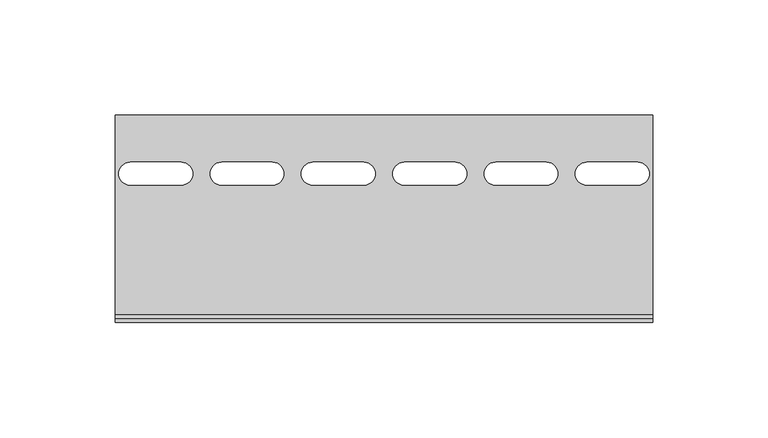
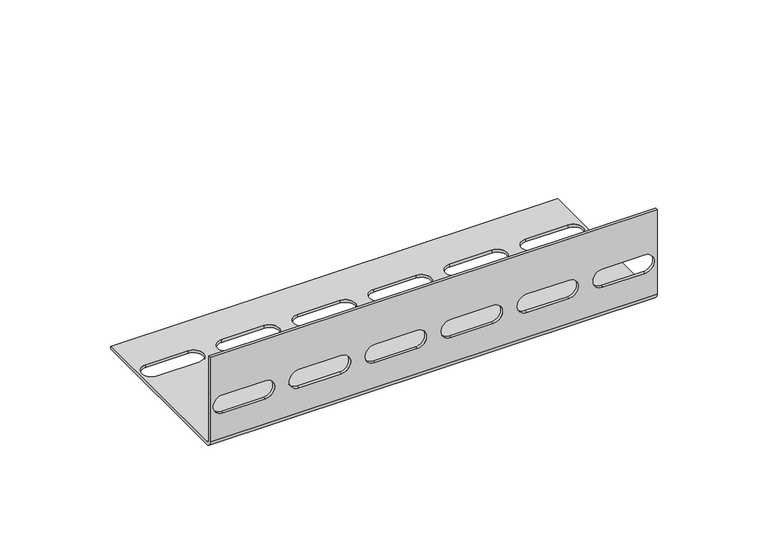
"""IFC4 building model written with IfcOpenShell, lengths in millimetres: proxy geometry, КМ Профиль_Кронштейн настенный соединительный LSPN : LSPN HD."""

from ifc_helpers import new_model, si_unit, frame, origin, place, context, project, spatial, polyline, circle_curve, source, transform, mapped, element, save
from ifc_brep_helpers import plane_surface, cylinder_surface, revolved_surface, advanced_brep


def generic_models_55f142c9(model_context):
    return source(origin(), model_context, "Body", "AdvancedBrep", [
        advanced_brep(
        [(0.0, 0.0, 0.0), (0.0, -86.5, 0.0), (0.0, -90.0, 3.5), (0.0, -90.0, 50.0), (0.0, -88.5, 50.0), (0.0, -88.5, 3.5), (0.0, -86.5, 1.5), (0.0, 0.0, 1.5), (233.0, -86.5, 0.0), (233.0, 0.0, 0.0), (233.0, 0.0, 1.5), (233.0, -86.5, 1.5), (233.0, -88.5, 3.5), (233.0, -88.5, 50.0), (233.0, -90.0, 50.0), (233.0, -90.0, 3.5), (68.1, -20.4117981, 0.0), (46.1, -20.4117981, 0.0), (46.1, -30.4117981, 0.0), (68.1, -30.4117981, 0.0), (107.7, -20.4117981, 0.0), (85.7, -20.4117981, 0.0), (85.7, -30.4117981, 0.0), (107.7, -30.4117981, 0.0), (147.3, -20.4117981, 0.0), (125.3, -20.4117981, 0.0), (125.3, -30.4117981, 0.0), (147.3, -30.4117981, 0.0), (186.9, -20.4117981, 0.0), (164.9, -20.4117981, 0.0), (164.9, -30.4117981, 0.0), (186.9, -30.4117981, 0.0), (226.5, -20.4117981, 0.0), (204.5, -20.4117981, 0.0), (204.5, -30.4117981, 0.0), (226.5, -30.4117981, 0.0), (28.5, -20.4117981, 0.0), (6.5, -20.4117981, 0.0), (6.5, -30.4117981, 0.0), (28.5, -30.4117981, 0.0), (28.5, -88.5, 27.1195905), (6.5, -88.5, 27.1195905), (6.5, -88.5, 17.1195905), (28.5, -88.5, 17.1195905), (68.1, -88.5, 27.1195905), (46.1, -88.5, 27.1195905), (46.1, -88.5, 17.1195905), (68.1, -88.5, 17.1195905), (107.7, -88.5, 27.1195905), (85.7, -88.5, 27.1195905), (85.7, -88.5, 17.1195905), (107.7, -88.5, 17.1195905), (147.3, -88.5, 27.1195905), (125.3, -88.5, 27.1195905), (125.3, -88.5, 17.1195905), (147.3, -88.5, 17.1195905), (186.9, -88.5, 27.1195905), (164.9, -88.5, 27.1195905), (164.9, -88.5, 17.1195905), (186.9, -88.5, 17.1195905), (226.5, -88.5, 27.1195905), (204.5, -88.5, 27.1195905), (204.5, -88.5, 17.1195905), (226.5, -88.5, 17.1195905), (6.5, -90.0, 27.1195905), (28.5, -90.0, 27.1195905), (28.5, -90.0, 17.1195905), (6.5, -90.0, 17.1195905), (46.1, -90.0, 27.1195905), (68.1, -90.0, 27.1195905), (68.1, -90.0, 17.1195905), (46.1, -90.0, 17.1195905), (85.7, -90.0, 27.1195905), (107.7, -90.0, 27.1195905), (107.7, -90.0, 17.1195905), (85.7, -90.0, 17.1195905), (125.3, -90.0, 27.1195905), (147.3, -90.0, 27.1195905), (147.3, -90.0, 17.1195905), (125.3, -90.0, 17.1195905), (164.9, -90.0, 27.1195905), (186.9, -90.0, 27.1195905), (186.9, -90.0, 17.1195905), (164.9, -90.0, 17.1195905), (204.5, -90.0, 27.1195905), (226.5, -90.0, 27.1195905), (226.5, -90.0, 17.1195905), (204.5, -90.0, 17.1195905), (46.1, -20.4117981, 1.5), (68.1, -20.4117981, 1.5), (68.1, -30.4117981, 1.5), (46.1, -30.4117981, 1.5), (85.7, -20.4117981, 1.5), (107.7, -20.4117981, 1.5), (107.7, -30.4117981, 1.5), (85.7, -30.4117981, 1.5), (125.3, -20.4117981, 1.5), (147.3, -20.4117981, 1.5), (147.3, -30.4117981, 1.5), (125.3, -30.4117981, 1.5), (164.9, -20.4117981, 1.5), (186.9, -20.4117981, 1.5), (186.9, -30.4117981, 1.5), (164.9, -30.4117981, 1.5), (204.5, -20.4117981, 1.5), (226.5, -20.4117981, 1.5), (226.5, -30.4117981, 1.5), (204.5, -30.4117981, 1.5), (6.5, -20.4117981, 1.5), (28.5, -20.4117981, 1.5), (28.5, -30.4117981, 1.5), (6.5, -30.4117981, 1.5)],
        [
            (0, 1),
            (1, 2, circle_curve(frame((0.0, -86.5, 3.5), z_axis=(-1.0, 0.0, 0.0), x_axis=(0.0, 1.0, 0.0)), 3.5)),
            (2, 3),
            (3, 4),
            (4, 5),
            (5, 6, circle_curve(frame((0.0, -86.5, 3.5), z_axis=(1.0, 0.0, 0.0), x_axis=(0.0, 1.0, 0.0)), 2.0)),
            (6, 7),
            (7, 0),
            (8, 9),
            (9, 10),
            (10, 11),
            (11, 12, circle_curve(frame((233.0, -86.5, 3.5), z_axis=(-1.0, 0.0, 0.0), x_axis=(0.0, 1.0, 0.0)), 2.0)),
            (12, 13),
            (13, 14),
            (14, 15),
            (15, 8, circle_curve(frame((233.0, -86.5, 3.5), z_axis=(1.0, 0.0, 0.0), x_axis=(0.0, 1.0, 0.0)), 3.5)),
            (0, 9),
            (8, 1),
            (16, 17),
            (17, 18, circle_curve(frame((46.1, -25.4117981, 0.0), z_axis=(0.0, 0.0, 1.0), x_axis=(1.0, 0.0, 0.0)), 5.0)),
            (18, 19),
            (19, 16, circle_curve(frame((68.1, -25.4117981, 0.0), z_axis=(0.0, 0.0, 1.0), x_axis=(1.0, 0.0, 0.0)), 5.0)),
            (20, 21),
            (21, 22, circle_curve(frame((85.7, -25.4117981, 0.0), z_axis=(0.0, 0.0, 1.0), x_axis=(1.0, 0.0, 0.0)), 5.0)),
            (22, 23),
            (23, 20, circle_curve(frame((107.7, -25.4117981, 0.0), z_axis=(0.0, 0.0, 1.0), x_axis=(1.0, 0.0, 0.0)), 5.0)),
            (24, 25),
            (25, 26, circle_curve(frame((125.3, -25.4117981, 0.0), z_axis=(0.0, 0.0, 1.0), x_axis=(1.0, 0.0, 0.0)), 5.0)),
            (26, 27),
            (27, 24, circle_curve(frame((147.3, -25.4117981, 0.0), z_axis=(0.0, 0.0, 1.0), x_axis=(1.0, 0.0, 0.0)), 5.0)),
            (28, 29),
            (29, 30, circle_curve(frame((164.9, -25.4117981, 0.0), z_axis=(0.0, 0.0, 1.0), x_axis=(1.0, 0.0, 0.0)), 5.0)),
            (30, 31),
            (31, 28, circle_curve(frame((186.9, -25.4117981, 0.0), z_axis=(0.0, 0.0, 1.0), x_axis=(1.0, 0.0, 0.0)), 5.0)),
            (32, 33),
            (33, 34, circle_curve(frame((204.5, -25.4117981, 0.0), z_axis=(0.0, 0.0, 1.0), x_axis=(1.0, 0.0, 0.0)), 5.0)),
            (34, 35),
            (35, 32, circle_curve(frame((226.5, -25.4117981, 0.0), z_axis=(0.0, 0.0, 1.0), x_axis=(1.0, 0.0, 0.0)), 5.0)),
            (36, 37),
            (37, 38, circle_curve(frame((6.5, -25.4117981, 0.0), z_axis=(0.0, 0.0, 1.0), x_axis=(1.0, 0.0, 0.0)), 5.0)),
            (38, 39),
            (39, 36, circle_curve(frame((28.5, -25.4117981, 0.0), z_axis=(0.0, 0.0, 1.0), x_axis=(1.0, 0.0, 0.0)), 5.0)),
            (4, 13),
            (12, 5),
            (40, 41),
            (41, 42, circle_curve(frame((6.5, -88.5, 22.1195905), z_axis=(0.0, -1.0, 0.0), x_axis=(1.0, 0.0, 0.0)), 5.0)),
            (42, 43),
            (43, 40, circle_curve(frame((28.5, -88.5, 22.1195905), z_axis=(0.0, -1.0, 0.0), x_axis=(1.0, 0.0, 0.0)), 5.0)),
            (44, 45),
            (45, 46, circle_curve(frame((46.1, -88.5, 22.1195905), z_axis=(0.0, -1.0, 0.0), x_axis=(1.0, 0.0, 0.0)), 5.0)),
            (46, 47),
            (47, 44, circle_curve(frame((68.1, -88.5, 22.1195905), z_axis=(0.0, -1.0, 0.0), x_axis=(1.0, 0.0, 0.0)), 5.0)),
            (48, 49),
            (49, 50, circle_curve(frame((85.7, -88.5, 22.1195905), z_axis=(0.0, -1.0, 0.0), x_axis=(1.0, 0.0, 0.0)), 5.0)),
            (50, 51),
            (51, 48, circle_curve(frame((107.7, -88.5, 22.1195905), z_axis=(0.0, -1.0, 0.0), x_axis=(1.0, 0.0, 0.0)), 5.0)),
            (52, 53),
            (53, 54, circle_curve(frame((125.3, -88.5, 22.1195905), z_axis=(0.0, -1.0, 0.0), x_axis=(1.0, 0.0, 0.0)), 5.0)),
            (54, 55),
            (55, 52, circle_curve(frame((147.3, -88.5, 22.1195905), z_axis=(0.0, -1.0, 0.0), x_axis=(1.0, 0.0, 0.0)), 5.0)),
            (56, 57),
            (57, 58, circle_curve(frame((164.9, -88.5, 22.1195905), z_axis=(0.0, -1.0, 0.0), x_axis=(1.0, 0.0, 0.0)), 5.0)),
            (58, 59),
            (59, 56, circle_curve(frame((186.9, -88.5, 22.1195905), z_axis=(0.0, -1.0, 0.0), x_axis=(1.0, 0.0, 0.0)), 5.0)),
            (60, 61),
            (61, 62, circle_curve(frame((204.5, -88.5, 22.1195905), z_axis=(0.0, -1.0, 0.0), x_axis=(1.0, 0.0, 0.0)), 5.0)),
            (62, 63),
            (63, 60, circle_curve(frame((226.5, -88.5, 22.1195905), z_axis=(0.0, -1.0, 0.0), x_axis=(1.0, 0.0, 0.0)), 5.0)),
            (3, 14),
            (2, 15),
            (64, 65),
            (65, 66, circle_curve(frame((28.5, -90.0, 22.1195905), z_axis=(0.0, 1.0, 0.0), x_axis=(1.0, 0.0, 0.0)), 5.0)),
            (66, 67),
            (67, 64, circle_curve(frame((6.5, -90.0, 22.1195905), z_axis=(0.0, 1.0, 0.0), x_axis=(1.0, 0.0, 0.0)), 5.0)),
            (68, 69),
            (69, 70, circle_curve(frame((68.1, -90.0, 22.1195905), z_axis=(0.0, 1.0, 0.0), x_axis=(1.0, 0.0, 0.0)), 5.0)),
            (70, 71),
            (71, 68, circle_curve(frame((46.1, -90.0, 22.1195905), z_axis=(0.0, 1.0, 0.0), x_axis=(1.0, 0.0, 0.0)), 5.0)),
            (72, 73),
            (73, 74, circle_curve(frame((107.7, -90.0, 22.1195905), z_axis=(0.0, 1.0, 0.0), x_axis=(1.0, 0.0, 0.0)), 5.0)),
            (74, 75),
            (75, 72, circle_curve(frame((85.7, -90.0, 22.1195905), z_axis=(0.0, 1.0, 0.0), x_axis=(1.0, 0.0, 0.0)), 5.0)),
            (76, 77),
            (77, 78, circle_curve(frame((147.3, -90.0, 22.1195905), z_axis=(0.0, 1.0, 0.0), x_axis=(1.0, 0.0, 0.0)), 5.0)),
            (78, 79),
            (79, 76, circle_curve(frame((125.3, -90.0, 22.1195905), z_axis=(0.0, 1.0, 0.0), x_axis=(1.0, 0.0, 0.0)), 5.0)),
            (80, 81),
            (81, 82, circle_curve(frame((186.9, -90.0, 22.1195905), z_axis=(0.0, 1.0, 0.0), x_axis=(1.0, 0.0, 0.0)), 5.0)),
            (82, 83),
            (83, 80, circle_curve(frame((164.9, -90.0, 22.1195905), z_axis=(0.0, 1.0, 0.0), x_axis=(1.0, 0.0, 0.0)), 5.0)),
            (84, 85),
            (85, 86, circle_curve(frame((226.5, -90.0, 22.1195905), z_axis=(0.0, 1.0, 0.0), x_axis=(1.0, 0.0, 0.0)), 5.0)),
            (86, 87),
            (87, 84, circle_curve(frame((204.5, -90.0, 22.1195905), z_axis=(0.0, 1.0, 0.0), x_axis=(1.0, 0.0, 0.0)), 5.0)),
            (6, 11),
            (10, 7),
            (88, 89),
            (89, 90, circle_curve(frame((68.1, -25.4117981, 1.5), z_axis=(0.0, 0.0, -1.0), x_axis=(1.0, 0.0, 0.0)), 5.0)),
            (90, 91),
            (91, 88, circle_curve(frame((46.1, -25.4117981, 1.5), z_axis=(0.0, 0.0, -1.0), x_axis=(1.0, 0.0, 0.0)), 5.0)),
            (92, 93),
            (93, 94, circle_curve(frame((107.7, -25.4117981, 1.5), z_axis=(0.0, 0.0, -1.0), x_axis=(1.0, 0.0, 0.0)), 5.0)),
            (94, 95),
            (95, 92, circle_curve(frame((85.7, -25.4117981, 1.5), z_axis=(0.0, 0.0, -1.0), x_axis=(1.0, 0.0, 0.0)), 5.0)),
            (96, 97),
            (97, 98, circle_curve(frame((147.3, -25.4117981, 1.5), z_axis=(0.0, 0.0, -1.0), x_axis=(1.0, 0.0, 0.0)), 5.0)),
            (98, 99),
            (99, 96, circle_curve(frame((125.3, -25.4117981, 1.5), z_axis=(0.0, 0.0, -1.0), x_axis=(1.0, 0.0, 0.0)), 5.0)),
            (100, 101),
            (101, 102, circle_curve(frame((186.9, -25.4117981, 1.5), z_axis=(0.0, 0.0, -1.0), x_axis=(1.0, 0.0, 0.0)), 5.0)),
            (102, 103),
            (103, 100, circle_curve(frame((164.9, -25.4117981, 1.5), z_axis=(0.0, 0.0, -1.0), x_axis=(1.0, 0.0, 0.0)), 5.0)),
            (104, 105),
            (105, 106, circle_curve(frame((226.5, -25.4117981, 1.5), z_axis=(0.0, 0.0, -1.0), x_axis=(1.0, 0.0, 0.0)), 5.0)),
            (106, 107),
            (107, 104, circle_curve(frame((204.5, -25.4117981, 1.5), z_axis=(0.0, 0.0, -1.0), x_axis=(1.0, 0.0, 0.0)), 5.0)),
            (108, 109),
            (109, 110, circle_curve(frame((28.5, -25.4117981, 1.5), z_axis=(0.0, 0.0, -1.0), x_axis=(1.0, 0.0, 0.0)), 5.0)),
            (110, 111),
            (111, 108, circle_curve(frame((6.5, -25.4117981, 1.5), z_axis=(0.0, 0.0, -1.0), x_axis=(1.0, 0.0, 0.0)), 5.0)),
            (64, 41),
            (40, 65),
            (67, 42),
            (66, 43),
            (88, 17),
            (16, 89),
            (91, 18),
            (90, 19),
            (68, 45),
            (44, 69),
            (71, 46),
            (70, 47),
            (92, 21),
            (20, 93),
            (95, 22),
            (94, 23),
            (72, 49),
            (48, 73),
            (75, 50),
            (74, 51),
            (96, 25),
            (24, 97),
            (99, 26),
            (98, 27),
            (76, 53),
            (52, 77),
            (79, 54),
            (78, 55),
            (100, 29),
            (28, 101),
            (103, 30),
            (102, 31),
            (80, 57),
            (56, 81),
            (83, 58),
            (82, 59),
            (104, 33),
            (32, 105),
            (107, 34),
            (106, 35),
            (84, 61),
            (60, 85),
            (87, 62),
            (86, 63),
            (108, 37),
            (36, 109),
            (111, 38),
            (110, 39),
        ],
        [
            plane_surface(frame((0.0, 0.0, 0.0), z_axis=(-1.0, 0.0, 0.0), x_axis=(0.0, 0.0, 1.0))),
            plane_surface(frame((233.0, 0.0, 0.0), z_axis=(1.0, 0.0, 0.0), x_axis=(0.0, 0.0, 1.0))),
            plane_surface(frame((0.0, 0.0, 0.0), z_axis=(0.0, 0.0, -1.0), x_axis=(1.0, 0.0, 0.0))),
            plane_surface(frame((0.0, -88.5, 50.0), z_axis=(0.0, 1.0, 0.0), x_axis=(1.0, 0.0, 0.0))),
            plane_surface(frame((0.0, -90.0, 50.0), z_axis=(0.0, 0.0, 1.0), x_axis=(1.0, 0.0, 0.0))),
            plane_surface(frame((0.0, -90.0, 3.5), z_axis=(0.0, -1.0, 0.0), x_axis=(1.0, 0.0, 0.0))),
            plane_surface(frame((0.0, -86.5, 1.5), z_axis=(0.0, 0.0, 1.0), x_axis=(1.0, 0.0, 0.0))),
            plane_surface(frame((0.0, 0.0, 1.5), z_axis=(0.0, 1.0, 0.0), x_axis=(1.0, 0.0, 0.0))),
            cylinder_surface(frame((0.0, -86.5, 3.5), z_axis=(-1.0, 0.0, 0.0), x_axis=(0.0, 1.0, 0.0)), 3.5),
            revolved_surface(polyline([(233.0, -84.5, 3.5), (0.0, -84.5, 3.5)]), (0.0, -86.5, 3.5), (1.0, 0.0, 0.0)),
            plane_surface(frame((28.5, -90.0, 27.1195905), z_axis=(0.0, 0.0, -1.0), x_axis=(0.0, 1.0, 0.0))),
            revolved_surface(polyline([(11.5, -90.0, 22.1195905), (11.5, -88.5, 22.1195905)]), (6.5, -88.5, 22.1195905), (0.0, -1.0, 0.0)),
            plane_surface(frame((6.5, -90.0, 17.1195905), z_axis=(0.0, 0.0, 1.0), x_axis=(0.0, 1.0, 0.0))),
            revolved_surface(polyline([(33.5, -90.0, 22.1195905), (33.5, -88.5, 22.1195905)]), (28.5, -88.5, 22.1195905), (0.0, -1.0, 0.0)),
            plane_surface(frame((68.1, -20.4117981, 1.5), z_axis=(0.0, -1.0, 0.0), x_axis=(0.0, 0.0, -1.0))),
            revolved_surface(polyline([(51.1, -25.4117981, 1.5), (51.1, -25.4117981, 0.0)]), (46.1, -25.4117981, 0.0), (0.0, 0.0, 1.0)),
            plane_surface(frame((46.1, -30.4117981, 1.5), z_axis=(0.0, 1.0, 0.0), x_axis=(0.0, 0.0, -1.0))),
            revolved_surface(polyline([(73.1, -25.4117981, 1.5), (73.1, -25.4117981, 0.0)]), (68.1, -25.4117981, 0.0), (0.0, 0.0, 1.0)),
            plane_surface(frame((68.1, -90.0, 27.1195905), z_axis=(0.0, 0.0, -1.0), x_axis=(0.0, 1.0, 0.0))),
            revolved_surface(polyline([(51.1, -90.0, 22.1195905), (51.1, -88.5, 22.1195905)]), (46.1, -88.5, 22.1195905), (0.0, -1.0, 0.0)),
            plane_surface(frame((46.1, -90.0, 17.1195905), z_axis=(0.0, 0.0, 1.0), x_axis=(0.0, 1.0, 0.0))),
            revolved_surface(polyline([(73.1, -90.0, 22.1195905), (73.1, -88.5, 22.1195905)]), (68.1, -88.5, 22.1195905), (0.0, -1.0, 0.0)),
            plane_surface(frame((107.7, -20.4117981, 1.5), z_axis=(0.0, -1.0, 0.0), x_axis=(0.0, 0.0, -1.0))),
            revolved_surface(polyline([(90.7, -25.4117981, 1.5), (90.7, -25.4117981, 0.0)]), (85.7, -25.4117981, 0.0), (0.0, 0.0, 1.0)),
            plane_surface(frame((85.7, -30.4117981, 1.5), z_axis=(0.0, 1.0, 0.0), x_axis=(0.0, 0.0, -1.0))),
            revolved_surface(polyline([(112.7, -25.4117981, 1.5), (112.7, -25.4117981, 0.0)]), (107.7, -25.4117981, 0.0), (0.0, 0.0, 1.0)),
            plane_surface(frame((107.7, -90.0, 27.1195905), z_axis=(0.0, 0.0, -1.0), x_axis=(0.0, 1.0, 0.0))),
            revolved_surface(polyline([(90.7, -90.0, 22.1195905), (90.7, -88.5, 22.1195905)]), (85.7, -88.5, 22.1195905), (0.0, -1.0, 0.0)),
            plane_surface(frame((85.7, -90.0, 17.1195905), z_axis=(0.0, 0.0, 1.0), x_axis=(0.0, 1.0, 0.0))),
            revolved_surface(polyline([(112.7, -90.0, 22.1195905), (112.7, -88.5, 22.1195905)]), (107.7, -88.5, 22.1195905), (0.0, -1.0, 0.0)),
            plane_surface(frame((147.3, -20.4117981, 1.5), z_axis=(0.0, -1.0, 0.0), x_axis=(0.0, 0.0, -1.0))),
            revolved_surface(polyline([(130.3, -25.4117981, 1.5), (130.3, -25.4117981, 0.0)]), (125.3, -25.4117981, 0.0), (0.0, 0.0, 1.0)),
            plane_surface(frame((125.3, -30.4117981, 1.5), z_axis=(0.0, 1.0, 0.0), x_axis=(0.0, 0.0, -1.0))),
            revolved_surface(polyline([(152.3, -25.4117981, 1.5), (152.3, -25.4117981, 0.0)]), (147.3, -25.4117981, 0.0), (0.0, 0.0, 1.0)),
            plane_surface(frame((147.3, -90.0, 27.1195905), z_axis=(0.0, 0.0, -1.0), x_axis=(0.0, 1.0, 0.0))),
            revolved_surface(polyline([(130.3, -90.0, 22.1195905), (130.3, -88.5, 22.1195905)]), (125.3, -88.5, 22.1195905), (0.0, -1.0, 0.0)),
            plane_surface(frame((125.3, -90.0, 17.1195905), z_axis=(0.0, 0.0, 1.0), x_axis=(0.0, 1.0, 0.0))),
            revolved_surface(polyline([(152.3, -90.0, 22.1195905), (152.3, -88.5, 22.1195905)]), (147.3, -88.5, 22.1195905), (0.0, -1.0, 0.0)),
            plane_surface(frame((186.9, -20.4117981, 1.5), z_axis=(0.0, -1.0, 0.0), x_axis=(0.0, 0.0, -1.0))),
            revolved_surface(polyline([(169.9, -25.4117981, 1.5), (169.9, -25.4117981, 0.0)]), (164.9, -25.4117981, 0.0), (0.0, 0.0, 1.0)),
            plane_surface(frame((164.9, -30.4117981, 1.5), z_axis=(0.0, 1.0, 0.0), x_axis=(0.0, 0.0, -1.0))),
            revolved_surface(polyline([(191.9, -25.4117981, 1.5), (191.9, -25.4117981, 0.0)]), (186.9, -25.4117981, 0.0), (0.0, 0.0, 1.0)),
            plane_surface(frame((186.9, -90.0, 27.1195905), z_axis=(0.0, 0.0, -1.0), x_axis=(0.0, 1.0, 0.0))),
            revolved_surface(polyline([(169.9, -90.0, 22.1195905), (169.9, -88.5, 22.1195905)]), (164.9, -88.5, 22.1195905), (0.0, -1.0, 0.0)),
            plane_surface(frame((164.9, -90.0, 17.1195905), z_axis=(0.0, 0.0, 1.0), x_axis=(0.0, 1.0, 0.0))),
            revolved_surface(polyline([(191.9, -90.0, 22.1195905), (191.9, -88.5, 22.1195905)]), (186.9, -88.5, 22.1195905), (0.0, -1.0, 0.0)),
            plane_surface(frame((226.5, -20.4117981, 1.5), z_axis=(0.0, -1.0, 0.0), x_axis=(0.0, 0.0, -1.0))),
            revolved_surface(polyline([(209.5, -25.4117981, 1.5), (209.5, -25.4117981, 0.0)]), (204.5, -25.4117981, 0.0), (0.0, 0.0, 1.0)),
            plane_surface(frame((204.5, -30.4117981, 1.5), z_axis=(0.0, 1.0, 0.0), x_axis=(0.0, 0.0, -1.0))),
            revolved_surface(polyline([(231.5, -25.4117981, 1.5), (231.5, -25.4117981, 0.0)]), (226.5, -25.4117981, 0.0), (0.0, 0.0, 1.0)),
            plane_surface(frame((226.5, -90.0, 27.1195905), z_axis=(0.0, 0.0, -1.0), x_axis=(0.0, 1.0, 0.0))),
            revolved_surface(polyline([(209.5, -90.0, 22.1195905), (209.5, -88.5, 22.1195905)]), (204.5, -88.5, 22.1195905), (0.0, -1.0, 0.0)),
            plane_surface(frame((204.5, -90.0, 17.1195905), z_axis=(0.0, 0.0, 1.0), x_axis=(0.0, 1.0, 0.0))),
            revolved_surface(polyline([(231.5, -90.0, 22.1195905), (231.5, -88.5, 22.1195905)]), (226.5, -88.5, 22.1195905), (0.0, -1.0, 0.0)),
            plane_surface(frame((28.5, -20.4117981, 1.5), z_axis=(0.0, -1.0, 0.0), x_axis=(0.0, 0.0, -1.0))),
            revolved_surface(polyline([(11.5, -25.4117981, 1.5), (11.5, -25.4117981, 0.0)]), (6.5, -25.4117981, 0.0), (0.0, 0.0, 1.0)),
            plane_surface(frame((6.5, -30.4117981, 1.5), z_axis=(0.0, 1.0, 0.0), x_axis=(0.0, 0.0, -1.0))),
            revolved_surface(polyline([(33.5, -25.4117981, 1.5), (33.5, -25.4117981, 0.0)]), (28.5, -25.4117981, 0.0), (0.0, 0.0, 1.0)),
        ],
        [
            (0, [[1, 2, 3, 4, 5, 6, 7, 8]]),
            (1, [[9, 10, 11, 12, 13, 14, 15, 16]]),
            (2, [[-1, 17, -9, 18], [19, 20, 21, 22], [23, 24, 25, 26], [27, 28, 29, 30], [31, 32, 33, 34], [35, 36, 37, 38], [39, 40, 41, 42]]),
            (3, [[-5, 43, -13, 44], [45, 46, 47, 48], [49, 50, 51, 52], [53, 54, 55, 56], [57, 58, 59, 60], [61, 62, 63, 64], [65, 66, 67, 68]]),
            (4, [[-4, 69, -14, -43]]),
            (5, [[-3, 70, -15, -69], [71, 72, 73, 74], [75, 76, 77, 78], [79, 80, 81, 82], [83, 84, 85, 86], [87, 88, 89, 90], [91, 92, 93, 94]]),
            (6, [[-7, 95, -11, 96], [97, 98, 99, 100], [101, 102, 103, 104], [105, 106, 107, 108], [109, 110, 111, 112], [113, 114, 115, 116], [117, 118, 119, 120]]),
            (7, [[-8, -96, -10, -17]]),
            (8, [[-2, -18, -16, -70]]),
            (9, [[-6, -44, -12, -95]]),
            (10, [[121, -45, 122, -71]]),
            (11, [[-121, -74, 123, -46]]),
            (12, [[-123, -73, 124, -47]]),
            (13, [[-122, -48, -124, -72]]),
            (14, [[125, -19, 126, -97]]),
            (15, [[-125, -100, 127, -20]]),
            (16, [[-127, -99, 128, -21]]),
            (17, [[-126, -22, -128, -98]]),
            (18, [[129, -49, 130, -75]]),
            (19, [[-129, -78, 131, -50]]),
            (20, [[-131, -77, 132, -51]]),
            (21, [[-130, -52, -132, -76]]),
            (22, [[133, -23, 134, -101]]),
            (23, [[-133, -104, 135, -24]]),
            (24, [[-135, -103, 136, -25]]),
            (25, [[-134, -26, -136, -102]]),
            (26, [[137, -53, 138, -79]]),
            (27, [[-137, -82, 139, -54]]),
            (28, [[-139, -81, 140, -55]]),
            (29, [[-138, -56, -140, -80]]),
            (30, [[141, -27, 142, -105]]),
            (31, [[-141, -108, 143, -28]]),
            (32, [[-143, -107, 144, -29]]),
            (33, [[-142, -30, -144, -106]]),
            (34, [[145, -57, 146, -83]]),
            (35, [[-145, -86, 147, -58]]),
            (36, [[-147, -85, 148, -59]]),
            (37, [[-146, -60, -148, -84]]),
            (38, [[149, -31, 150, -109]]),
            (39, [[-149, -112, 151, -32]]),
            (40, [[-151, -111, 152, -33]]),
            (41, [[-150, -34, -152, -110]]),
            (42, [[153, -61, 154, -87]]),
            (43, [[-153, -90, 155, -62]]),
            (44, [[-155, -89, 156, -63]]),
            (45, [[-154, -64, -156, -88]]),
            (46, [[157, -35, 158, -113]]),
            (47, [[-157, -116, 159, -36]]),
            (48, [[-159, -115, 160, -37]]),
            (49, [[-158, -38, -160, -114]]),
            (50, [[161, -65, 162, -91]]),
            (51, [[-161, -94, 163, -66]]),
            (52, [[-163, -93, 164, -67]]),
            (53, [[-162, -68, -164, -92]]),
            (54, [[165, -39, 166, -117]]),
            (55, [[-165, -120, 167, -40]]),
            (56, [[-167, -119, 168, -41]]),
            (57, [[-166, -42, -168, -118]]),
        ],
    ),
    ])


if __name__ == "__main__":
    model = new_model("IFC4")
    model_context = context("Model", 3, world=origin())
    ifc_project = project(units=[si_unit("LENGTHUNIT", "METRE", prefix="MILLI")], contexts=[model_context])
    site = spatial("IfcSite", under=ifc_project)
    building = spatial("IfcBuilding", under=site)
    placement = place(None, origin())
    generic_models_shape = generic_models_55f142c9(model_context)
    element("IfcBuildingElementProxy", 1, Name="КМ Профиль_Кронштейн настенный соединительный LSPN : LSPN HD", ObjectType="КМ Профиль_Кронштейн настенный соединительный LSPN : LSPN HD", at=placement, inside=building, context=model_context, shape_type="MappedRepresentation", body=[
        mapped(generic_models_shape, transform((0.0, 0.0, 0.0), x_axis=(1.0, 0.0, 0.0), y_axis=(0.0, 1.0, 0.0), z_axis=(0.0, 0.0, 1.0))),
    ])
    save(model, "model.ifc")
